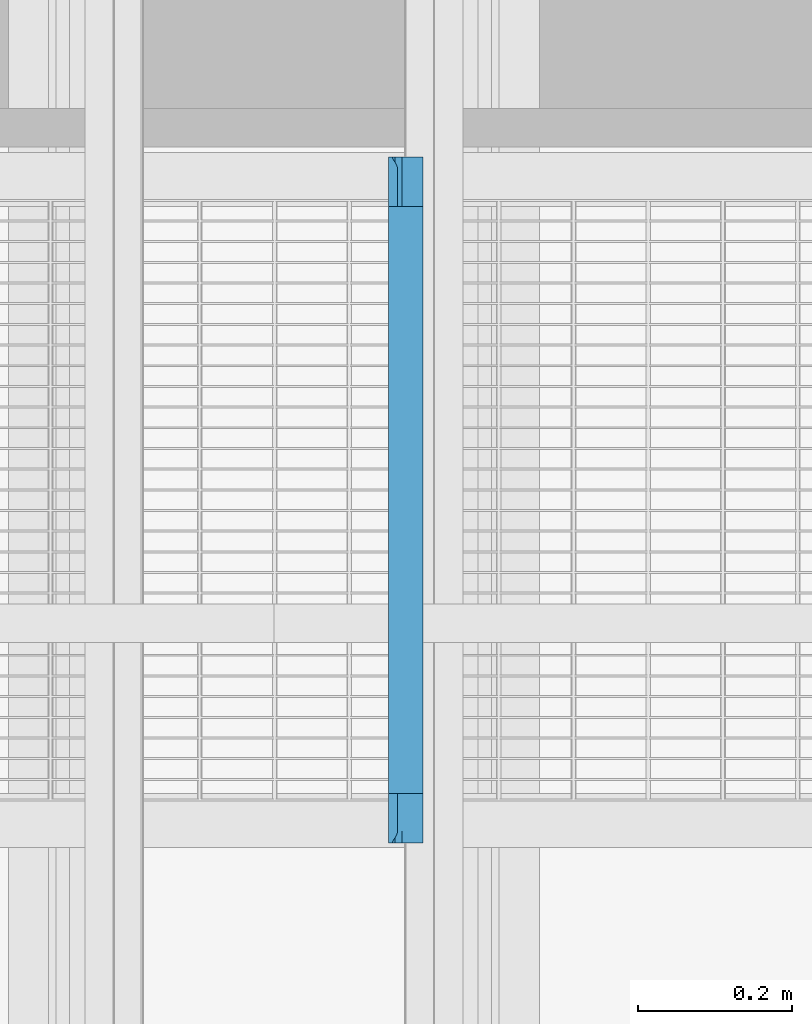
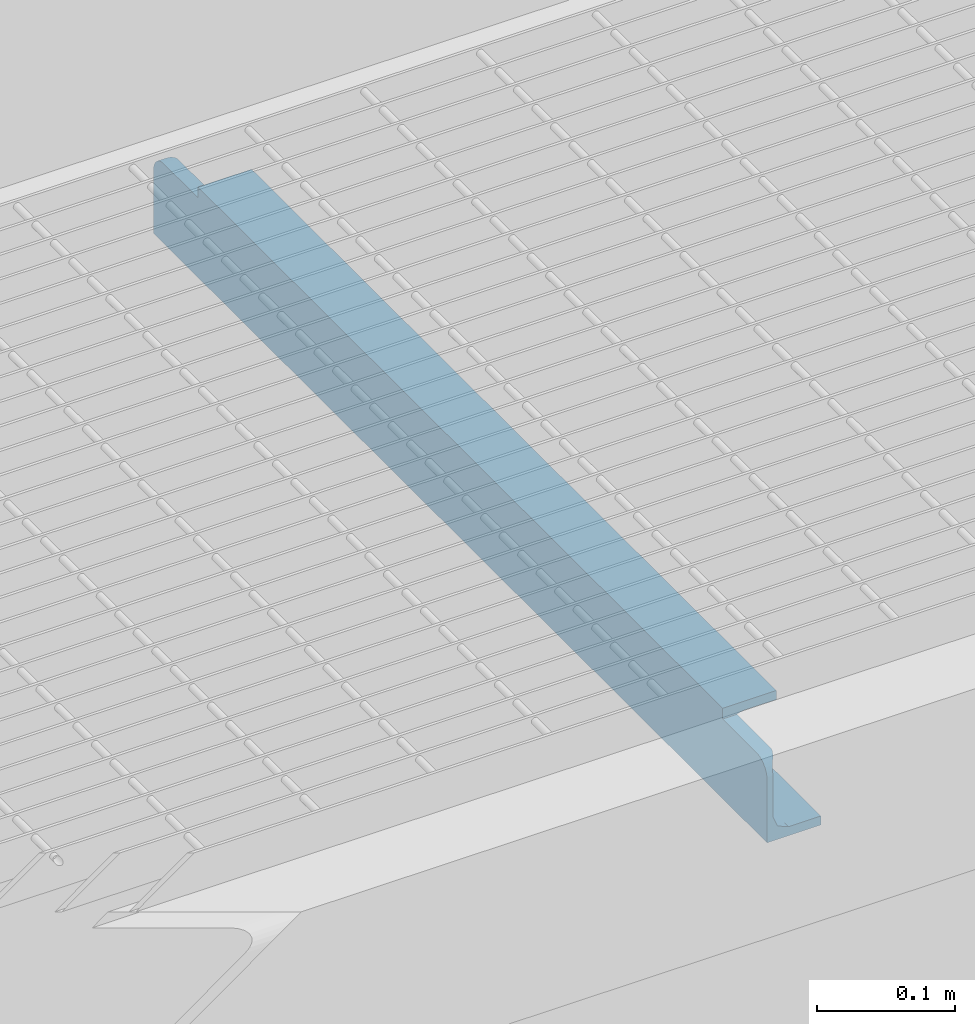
# One storey, part 50 of 75: 1 beam.
"""IFC2X3 building model written with IfcOpenShell, lengths in metres."""

from ifc_helpers import new_model, entity, si_unit, converted_unit, derived_unit, direction, frame, origin, place, context, subcontext, project, spatial, faceted_brep, material, type_object, element, save


model = new_model("IFC2X3")

# Units and contexts
model_context = context("Model", 3, precision=1e-05, world=origin(), true_north=direction((6.12303176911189e-17, 1.0)))
body_context = subcontext(model_context, "Body", "Model", "MODEL_VIEW")
ifc_project = project(units=[si_unit("LENGTHUNIT", "METRE"), si_unit("AREAUNIT", "SQUARE_METRE"), si_unit("VOLUMEUNIT", "CUBIC_METRE"), converted_unit("PLANEANGLEUNIT", "DEGREE", entity("IfcRatioMeasure", 0.0174532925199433), si_unit("PLANEANGLEUNIT", "RADIAN"), dimensions=[0, 0, 0, 0, 0, 0, 0]), si_unit("MASSUNIT", "GRAM", prefix="KILO"), derived_unit("MASSDENSITYUNIT", [(si_unit("MASSUNIT", "GRAM", prefix="KILO"), 1), (si_unit("LENGTHUNIT", "METRE"), -3)]), derived_unit("MOMENTOFINERTIAUNIT", [(si_unit("LENGTHUNIT", "METRE"), 4)]), si_unit("TIMEUNIT", "SECOND"), si_unit("FREQUENCYUNIT", "HERTZ"), si_unit("THERMODYNAMICTEMPERATUREUNIT", "DEGREE_CELSIUS"), derived_unit("THERMALTRANSMITTANCEUNIT", [(si_unit("MASSUNIT", "GRAM", prefix="KILO"), 1), (si_unit("THERMODYNAMICTEMPERATUREUNIT", "KELVIN"), -1), (si_unit("TIMEUNIT", "SECOND"), -3)]), derived_unit("VOLUMETRICFLOWRATEUNIT", [(si_unit("LENGTHUNIT", "METRE"), 3), (si_unit("TIMEUNIT", "SECOND"), -1)]), si_unit("ELECTRICCURRENTUNIT", "AMPERE"), si_unit("ELECTRICVOLTAGEUNIT", "VOLT"), si_unit("POWERUNIT", "WATT"), si_unit("FORCEUNIT", "NEWTON", prefix="KILO"), si_unit("ILLUMINANCEUNIT", "LUX"), si_unit("LUMINOUSFLUXUNIT", "LUMEN"), si_unit("LUMINOUSINTENSITYUNIT", "CANDELA"), derived_unit("USERDEFINED", [(si_unit("MASSUNIT", "GRAM", prefix="KILO"), -1), (si_unit("LENGTHUNIT", "METRE"), -2), (si_unit("TIMEUNIT", "SECOND"), 3), (si_unit("LUMINOUSFLUXUNIT", "LUMEN"), 1)]), derived_unit("LINEARVELOCITYUNIT", [(si_unit("LENGTHUNIT", "METRE"), 1), (si_unit("TIMEUNIT", "SECOND"), -1)]), si_unit("PRESSUREUNIT", "PASCAL"), derived_unit("USERDEFINED", [(si_unit("LENGTHUNIT", "METRE"), -2), (si_unit("MASSUNIT", "GRAM", prefix="KILO"), 1), (si_unit("TIMEUNIT", "SECOND"), -2)]), derived_unit("LINEARFORCEUNIT", [(si_unit("MASSUNIT", "GRAM", prefix="KILO"), 1), (si_unit("LENGTHUNIT", "METRE"), 1), (si_unit("TIMEUNIT", "SECOND"), -2), (si_unit("LENGTHUNIT", "METRE"), -1)]), derived_unit("PLANARFORCEUNIT", [(si_unit("MASSUNIT", "GRAM", prefix="KILO"), 1), (si_unit("LENGTHUNIT", "METRE"), 1), (si_unit("TIMEUNIT", "SECOND"), -2), (si_unit("LENGTHUNIT", "METRE"), -2)])], contexts=[model_context])

# Site, building, storey
site_placement = place(None, origin())
site = spatial("IfcSite", under=ifc_project, at=site_placement, Name="Superficie", CompositionType="ELEMENT")
building_placement = place(site_placement, origin())
building = spatial("IfcBuilding", under=site, at=building_placement, Name="Telegestiones", CompositionType="ELEMENT")
storey_placement = place(building_placement, origin())
storey = spatial("IfcBuildingStorey", under=building, at=storey_placement, Name="Nivel 0_NPT", CompositionType="ELEMENT", Elevation=0.0)

# Beam
ifc_material = material(Name="Metal - Acero - 345 MPa")
beam_type = type_object("IfcBeamType", Name="U-Canales de ala paralela:UAP80", PredefinedType="NOTDEFINED")
beam_placement = place(storey_placement, frame((10.6417897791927, 12.7898119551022, 17.78), z_axis=(0.0, 0.0, 1.0), x_axis=(0.0, -1.0, 0.0)))
element("IfcBeam", 1, at=beam_placement, inside=storey, type_object=beam_type, material=ifc_material, Name="U-Canales de ala paralela:UAP80", ObjectType="U-Canales de ala paralela:UAP80", context=body_context, shape_type="Brep", body=[
    faceted_brep([(-0.00159527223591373, 0.0450000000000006, 0.0), (-0.00159527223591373, 0.0450000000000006, 0.00799999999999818), (-0.00159527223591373, 0.0180000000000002, 0.00799999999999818), (-0.00159527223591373, 0.0140667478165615, 0.00962920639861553), (-0.00159527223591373, 0.0114371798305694, 0.0107184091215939), (-0.00159527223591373, 0.00880761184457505, 0.0118076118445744), (-0.00159527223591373, 0.00785570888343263, 0.014105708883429), (-0.00159527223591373, 0.00690380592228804, 0.0164038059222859), (-0.00159527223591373, 0.00595190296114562, 0.0187019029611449), (-0.00159527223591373, 0.00500000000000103, 0.0209999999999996), (-0.00159527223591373, 0.00500000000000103, 0.0579413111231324), (-0.00159527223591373, 0.0, 0.0579413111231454), (-0.00159527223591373, 0.0, 0.0), (-0.890595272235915, 0.0180000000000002, 0.00799999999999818), (-0.890595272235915, 0.0450000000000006, 0.00799999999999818), (-0.890595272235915, 0.0450000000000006, 0.0), (-0.890595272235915, 0.0, 0.0), (-0.890595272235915, 0.0, 0.0579413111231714), (-0.890595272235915, 0.00500000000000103, 0.0579413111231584), (-0.890595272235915, 0.00500000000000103, 0.0209999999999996), (-0.890595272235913, 0.00581460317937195, 0.0190333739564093), (-0.890595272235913, 0.00690380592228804, 0.0164038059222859), (-0.890595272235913, 0.00785570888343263, 0.0141057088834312), (-0.890595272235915, 0.00880761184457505, 0.0118076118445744), (-0.890595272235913, 0.0111057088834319, 0.0108557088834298), (-0.890595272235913, 0.0134038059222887, 0.00990380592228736), (-0.890595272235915, 0.0160333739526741, 0.00881460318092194), (-0.826295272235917, 0.0, 0.0799999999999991), (-0.0658952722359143, 0.0, 0.0799999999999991), (-0.0658952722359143, 0.0450000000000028, 0.0799999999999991), (-0.826295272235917, 0.0450000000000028, 0.0799999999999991), (-0.0658952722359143, 0.0450000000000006, 0.0719999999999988), (-0.826295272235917, 0.0450000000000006, 0.0719999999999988), (-0.0658952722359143, 0.0180000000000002, 0.0719999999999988), (-0.128842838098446, 0.0180000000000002, 0.0719999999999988), (-0.194304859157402, 0.0180000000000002, 0.0719999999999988), (-0.322714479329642, 0.0180000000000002, 0.0719999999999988), (-0.448609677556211, 0.0180000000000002, 0.072000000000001), (-0.574504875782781, 0.0180000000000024, 0.072000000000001), (-0.700400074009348, 0.0180000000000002, 0.0719999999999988), (-0.763347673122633, 0.0180000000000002, 0.0719999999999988), (-0.826295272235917, 0.0180000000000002, 0.0719999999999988), (-0.1253385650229, 0.00873473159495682, 0.0681189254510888), (-0.00990097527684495, 0.00971902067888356, 0.0690212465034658), (-0.00722207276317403, 0.00805140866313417, 0.0673681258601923), (-0.544296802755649, 0.00667192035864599, 0.0653776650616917), (-0.463738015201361, 0.00590908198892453, 0.0637759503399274), (-0.537050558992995, 0.00560250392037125, 0.0629117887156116), (-0.792641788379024, 0.00525335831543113, 0.0615540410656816), (-0.794133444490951, 0.00500000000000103, 0.0589999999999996), (-0.890381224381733, 0.00500000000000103, 0.0589999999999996), (-0.0658952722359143, 0.0119378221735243, 0.0705000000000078), (-0.138679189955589, 0.0108749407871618, 0.0698735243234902), (-0.289684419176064, 0.00818591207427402, 0.0675254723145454), (-0.235689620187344, 0.00983678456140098, 0.0691174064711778), (-0.221438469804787, 0.00711297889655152, 0.0661044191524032), (-0.828358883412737, 0.00588467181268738, 0.0637136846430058), (-0.754190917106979, 0.0058648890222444, 0.0636625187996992), (-0.122570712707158, 0.00586898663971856, 0.0636731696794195), (-0.00489743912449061, 0.00653775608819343, 0.0651332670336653), (-0.00303111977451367, 0.00542889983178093, 0.0623117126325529), (-0.139747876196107, 0.0133736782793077, 0.0711489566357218), (-0.0658952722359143, 0.0148775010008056, 0.0716194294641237), (-0.826295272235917, 0.0148775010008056, 0.0716194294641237), (-0.725006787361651, 0.007054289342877, 0.0660136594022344), (-0.806159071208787, 0.007190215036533, 0.066221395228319), (-0.751188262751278, 0.00871967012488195, 0.0681035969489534), (-0.821741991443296, 0.00878771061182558, 0.0681724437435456), (-0.731873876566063, 0.0157137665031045, 0.0717973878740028), (-0.656388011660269, 0.0158751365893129, 0.0718251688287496), (-0.887293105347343, 0.00653775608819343, 0.0651332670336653), (-0.884968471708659, 0.00805140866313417, 0.0673681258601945), (-0.153427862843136, 0.00681728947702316, 0.0656292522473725), (-0.0851009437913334, 0.0070865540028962, 0.0660637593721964), (-0.223870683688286, 0.00557806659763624, 0.0628334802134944), (-0.324805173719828, 0.00685931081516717, 0.065699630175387), (-0.889159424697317, 0.00542889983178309, 0.0623117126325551), (-0.0163952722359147, 0.01193782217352, 0.0705000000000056), (-0.0129474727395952, 0.0112305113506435, 0.0700983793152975), (-0.875795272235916, 0.0119378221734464, 0.0704999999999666), (-0.826295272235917, 0.0119378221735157, 0.0705000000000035), (-0.879243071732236, 0.0112305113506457, 0.0700983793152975), (-0.399380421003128, 0.00536884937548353, 0.0620747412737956), (-0.392844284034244, 0.00621995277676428, 0.0644982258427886), (-0.226457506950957, 0.0133736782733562, 0.0711489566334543), (-0.161573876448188, 0.0157225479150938, 0.0717989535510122), (-0.75345464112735, 0.0133736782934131, 0.0711489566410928), (-0.66760529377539, 0.0133736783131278, 0.0711489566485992), (-0.710529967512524, 0.0108989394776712, 0.069889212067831), (-0.882289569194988, 0.00971902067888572, 0.069021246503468), (-0.39087865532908, 0.0147556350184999, 0.0715886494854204), (-0.511557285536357, 0.0147219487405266, 0.0715799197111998), (-0.447031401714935, 0.0116878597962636, 0.0703647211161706), (-0.155170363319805, 0.00522625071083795, 0.0614148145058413), (-0.0800317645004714, 0.00520855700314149, 0.0613192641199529), (-0.127704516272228, 0.00500000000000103, 0.0589999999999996), (-0.717894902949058, 0.00523967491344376, 0.0614847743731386), (-0.664463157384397, 0.00890351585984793, 0.0682873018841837), (-0.313627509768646, 0.0152996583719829, 0.0717164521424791), (-0.236434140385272, 0.0158580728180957, 0.0718223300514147), (-0.566912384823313, 0.011307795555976, 0.0701451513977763), (-0.449725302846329, 0.007164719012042, 0.0661830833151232), (-0.330812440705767, 0.01176120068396, 0.0704051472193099), (-0.0018093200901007, 0.00500000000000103, 0.0589999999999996), (-0.374471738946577, 0.00795566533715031, 0.067252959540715), (-0.339661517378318, 0.00960203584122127, 0.0689234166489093), (-0.495596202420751, 0.00856943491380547, 0.0679478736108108), (-0.419471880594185, 0.00955595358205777, 0.0688842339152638), (-0.591250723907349, 0.0142535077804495, 0.0714484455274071), (-0.637492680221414, 0.0107328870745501, 0.0697791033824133), (-0.580926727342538, 0.00847032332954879, 0.0678422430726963), (-0.614751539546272, 0.00554163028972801, 0.0627133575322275), (-0.479182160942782, 0.00521908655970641, 0.0613766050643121), (-0.63679408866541, 0.00709380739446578, 0.0660749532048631), (-0.601637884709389, 0.00500000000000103, 0.0589999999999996), (-0.697885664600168, 0.00500000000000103, 0.0589999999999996), (-0.682036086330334, 0.00583156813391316, 0.0635748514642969), (-0.505390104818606, 0.00500000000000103, 0.0589999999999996), (-0.327009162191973, 0.00576169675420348, 0.0633845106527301), (-0.253599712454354, 0.00500000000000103, 0.0589999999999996), (-0.379494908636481, 0.00500000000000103, 0.0589999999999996), (-0.890497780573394, 0.00500000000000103, 0.0584725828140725), (-0.00169276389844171, 0.00500000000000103, 0.0584725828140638), (-0.127490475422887, 0.00500000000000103, 0.0209999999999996), (-0.253385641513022, 0.00500000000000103, 0.0209999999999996), (-0.349740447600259, 0.00500000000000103, 0.0209999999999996), (-0.446095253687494, 0.00500000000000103, 0.0209999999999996), (-0.55722023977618, 0.00500000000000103, 0.0209999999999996), (-0.668345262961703, 0.00500000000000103, 0.0209999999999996), (-0.76470006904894, 0.00500000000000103, 0.0209999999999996), (-0.0794870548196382, 0.00972190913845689, 0.0109763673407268), (-0.435997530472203, 0.00556213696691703, 0.0172185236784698), (-0.373294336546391, 0.00522987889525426, 0.0185660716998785), (-0.639580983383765, 0.0053531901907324, 0.0179903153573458), (-0.632632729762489, 0.00637757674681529, 0.0151759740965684), (-0.716522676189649, 0.00574745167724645, 0.0166554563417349), (-0.449211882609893, 0.012354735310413, 0.00928970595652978), (-0.32038846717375, 0.0113965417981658, 0.00980203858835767), (-0.338837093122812, 0.0147439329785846, 0.00841437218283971), (-0.524503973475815, 0.0144490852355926, 0.00849436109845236), (-0.512909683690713, 0.0180000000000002, 0.00799999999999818), (-0.601869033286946, 0.0154448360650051, 0.00825358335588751), (-0.403832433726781, 0.00939162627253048, 0.011258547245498), (-0.67300585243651, 0.0104857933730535, 0.0103916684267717), (-0.573219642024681, 0.0105107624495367, 0.0103740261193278), (-0.608382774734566, 0.0127204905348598, 0.00912032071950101), (-0.557220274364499, 0.00560622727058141, 0.0170764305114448), (-0.300537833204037, 0.00846054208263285, 0.0121683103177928), (-0.726955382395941, 0.0139509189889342, 0.00864666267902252), (-0.76470007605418, 0.0180000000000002, 0.00800000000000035), (-0.813619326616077, 0.0144028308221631, 0.00850758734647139), (-0.207094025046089, 0.00538630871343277, 0.0178544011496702), (-0.301563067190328, 0.00537533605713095, 0.017898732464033), (-0.349740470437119, 0.00647967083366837, 0.0149765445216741), (-0.15005261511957, 0.0110865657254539, 0.00999071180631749), (-0.0758239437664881, 0.0123642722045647, 0.00928511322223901), (-0.153439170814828, 0.00630537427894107, 0.0153223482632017), (-0.0880955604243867, 0.00767465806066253, 0.0131014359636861), (-0.183268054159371, 0.0083334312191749, 0.0123076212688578), (-0.236059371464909, 0.0108404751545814, 0.0101491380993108), (-0.118743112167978, 0.00535692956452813, 0.0179746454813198), (-0.0782307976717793, 0.00607386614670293, 0.0158262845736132), (-0.251391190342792, 0.0134664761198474, 0.00881611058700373), (-0.0763306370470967, 0.0152252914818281, 0.00829956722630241), (-0.160897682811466, 0.0144821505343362, 0.00848501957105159), (-0.127490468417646, 0.0180000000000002, 0.00800000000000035), (-0.194304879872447, 0.0180000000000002, 0.00799999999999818), (-0.290659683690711, 0.0180000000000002, 0.00799999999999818), (-0.38701448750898, 0.0179999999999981, 0.00800000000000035), (-0.274648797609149, 0.0156603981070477, 0.00821226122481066), (-0.428012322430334, 0.0152285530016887, 0.00829885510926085), (-0.512909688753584, 0.00904802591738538, 0.0115733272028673), (-0.5444433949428, 0.00701878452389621, 0.0140420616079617), (-0.607082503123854, 0.00857249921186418, 0.0120488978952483), (-0.785766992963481, 0.00998354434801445, 0.0107659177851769), (-0.700833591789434, 0.00807841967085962, 0.0125998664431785), (-0.638804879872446, 0.0180000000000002, 0.00799999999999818), (-0.802846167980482, 0.00747715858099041, 0.0133665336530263), (-0.807175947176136, 0.00550758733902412, 0.0174028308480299), (-0.447339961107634, 0.00719760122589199, 0.0137675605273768), (-0.251589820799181, 0.00639123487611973, 0.0151487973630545), (-0.369128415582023, 0.00783049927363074, 0.0129017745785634), (-0.698574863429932, 0.00670885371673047, 0.0145571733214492), (-0.821923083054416, 0.0119518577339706, 0.00949261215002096), (-0.0163952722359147, 0.0, 0.0705000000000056), (-0.0658952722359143, 0.0, 0.0705000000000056), (-0.826295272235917, 0.0, 0.0705000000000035), (-0.875795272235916, 0.0, 0.0705000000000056), (-0.879281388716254, 0.0, 0.0700892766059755), (-0.88257659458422, 0.0, 0.0688795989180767), (-0.885500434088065, 0.0, 0.0669372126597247), (-0.887892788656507, 0.0, 0.0643684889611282), (-0.889622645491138, 0.0, 0.0613140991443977), (-0.00256789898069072, 0.0, 0.0613140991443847), (-0.00429775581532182, 0.0, 0.0643684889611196), (-0.00669011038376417, 0.0, 0.0669372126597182), (-0.0096139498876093, 0.0, 0.0688795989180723), (-0.0129091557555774, 0.0, 0.0700892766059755)], [[[0, 1, 2, 3, 4, 5, 6, 7, 8, 9, 10, 11, 12]], [[13, 14, 15, 16, 17, 18, 19, 20, 21, 22, 23, 24, 25, 26]], [[27, 28, 29, 30]], [[30, 29, 31, 32]], [[14, 1, 0, 15]], [[32, 31, 33, 34, 35, 36, 37, 38, 39, 40, 41]], [[42, 43, 44]], [[45, 46, 47]], [[48, 49, 50]], [[51, 42, 52]], [[42, 51, 43]], [[53, 54, 55]], [[56, 57, 48]], [[58, 59, 60]], [[51, 61, 62]], [[34, 33, 62]], [[41, 40, 63]], [[64, 65, 66]], [[66, 65, 67]], [[42, 55, 54]], [[68, 39, 69]], [[65, 70, 71]], [[68, 40, 39]], [[72, 73, 58]], [[74, 75, 55]], [[70, 56, 76]], [[77, 78, 51]], [[79, 80, 81]], [[82, 46, 83]], [[52, 61, 51]], [[84, 85, 61]], [[44, 73, 42]], [[86, 87, 88]], [[86, 80, 63]], [[80, 89, 81]], [[37, 36, 90]], [[58, 73, 59]], [[71, 89, 67]], [[91, 90, 92]], [[93, 94, 95]], [[80, 67, 89]], [[48, 57, 96]], [[78, 43, 51]], [[88, 97, 66]], [[98, 36, 99]], [[58, 60, 94]], [[91, 92, 100]], [[46, 101, 83]], [[70, 65, 56]], [[99, 85, 84]], [[57, 65, 64]], [[71, 67, 65]], [[66, 67, 80]], [[54, 102, 84]], [[48, 96, 49]], [[103, 94, 60]], [[53, 104, 105]], [[106, 100, 92]], [[55, 75, 53]], [[92, 90, 102]], [[102, 105, 107]], [[69, 38, 108]], [[38, 37, 91]], [[100, 108, 91]], [[109, 88, 87]], [[105, 104, 107]], [[110, 109, 100]], [[47, 111, 45]], [[45, 110, 106]], [[112, 46, 82]], [[62, 85, 34]], [[54, 84, 52]], [[66, 80, 88]], [[86, 63, 68]], [[86, 88, 80]], [[66, 97, 64]], [[113, 97, 110]], [[97, 88, 109]], [[113, 110, 45]], [[106, 110, 100]], [[114, 115, 111]], [[101, 46, 45]], [[45, 111, 113]], [[57, 116, 96]], [[117, 114, 47]], [[98, 99, 84]], [[37, 90, 91]], [[48, 50, 76]], [[72, 58, 74]], [[61, 52, 84]], [[52, 42, 54]], [[57, 64, 116]], [[113, 64, 97]], [[35, 34, 85]], [[99, 35, 85]], [[61, 85, 62]], [[99, 36, 35]], [[90, 36, 98]], [[68, 69, 87]], [[40, 68, 63]], [[86, 68, 87]], [[87, 69, 108]], [[69, 39, 38]], [[87, 108, 100]], [[91, 108, 38]], [[112, 47, 46]], [[118, 119, 120]], [[57, 56, 65]], [[56, 48, 76]], [[115, 49, 96]], [[96, 111, 115]], [[111, 96, 116]], [[116, 113, 111]], [[113, 116, 64]], [[97, 109, 110]], [[100, 109, 87]], [[74, 119, 118]], [[95, 119, 93]], [[111, 47, 114]], [[117, 47, 112]], [[112, 120, 117]], [[83, 118, 82]], [[82, 120, 112]], [[82, 118, 120]], [[118, 83, 75]], [[101, 107, 104]], [[83, 101, 104]], [[106, 101, 45]], [[59, 73, 44]], [[55, 42, 72]], [[73, 72, 42]], [[55, 72, 74]], [[58, 94, 93]], [[95, 94, 103]], [[93, 74, 58]], [[74, 93, 119]], [[102, 54, 105]], [[104, 53, 75]], [[53, 105, 54]], [[92, 102, 107]], [[107, 106, 92]], [[106, 107, 101]], [[104, 75, 83]], [[74, 118, 75]], [[98, 102, 90]], [[102, 98, 84]], [[19, 18, 121, 50, 49, 115, 114, 117, 120, 119, 95, 103, 122, 10, 9, 123, 124, 125, 126, 127, 128, 129]], [[4, 130, 5]], [[131, 126, 132]], [[133, 134, 135]], [[136, 137, 138]], [[139, 140, 141]], [[142, 137, 136]], [[143, 144, 145]], [[127, 146, 133]], [[137, 142, 147]], [[148, 149, 150]], [[124, 123, 151]], [[152, 153, 132]], [[154, 130, 155]], [[156, 157, 158]], [[137, 147, 159]], [[160, 161, 156]], [[162, 138, 137]], [[162, 137, 159]], [[163, 3, 2]], [[154, 162, 159]], [[3, 163, 155]], [[164, 165, 166]], [[167, 168, 138]], [[166, 169, 164]], [[164, 169, 162]], [[170, 139, 136]], [[136, 144, 171]], [[138, 170, 136]], [[168, 170, 138]], [[172, 171, 173]], [[145, 148, 143]], [[172, 146, 131]], [[128, 135, 129]], [[143, 174, 175]], [[141, 176, 148]], [[174, 23, 177]], [[129, 178, 20]], [[21, 178, 177]], [[20, 178, 21]], [[179, 171, 172]], [[172, 134, 146]], [[142, 171, 179]], [[138, 162, 169]], [[164, 162, 154]], [[159, 158, 154]], [[158, 147, 180]], [[158, 159, 147]], [[181, 142, 179]], [[5, 130, 157]], [[180, 156, 158]], [[147, 142, 181]], [[171, 142, 136]], [[153, 179, 131]], [[172, 131, 179]], [[125, 124, 152]], [[126, 131, 146]], [[180, 152, 151]], [[125, 152, 132]], [[153, 152, 180]], [[153, 180, 147]], [[160, 156, 151]], [[156, 180, 151]], [[161, 6, 157]], [[151, 152, 124]], [[8, 160, 123]], [[123, 160, 151]], [[161, 8, 7, 6]], [[134, 133, 146]], [[173, 134, 172]], [[134, 182, 135]], [[175, 134, 173]], [[175, 173, 143]], [[173, 171, 144]], [[174, 177, 175]], [[176, 149, 148]], [[143, 148, 174]], [[26, 150, 149]], [[183, 24, 174]], [[150, 25, 183]], [[182, 175, 177]], [[22, 21, 177, 23]], [[154, 158, 130]], [[127, 126, 146]], [[133, 135, 128]], [[156, 161, 157]], [[8, 123, 9]], [[20, 19, 129]], [[157, 130, 158]], [[4, 3, 155]], [[155, 163, 164]], [[4, 155, 130]], [[154, 155, 164]], [[163, 165, 164]], [[165, 163, 2]], [[139, 144, 136]], [[170, 168, 140]], [[145, 139, 141]], [[139, 170, 140]], [[173, 144, 143]], [[139, 145, 144]], [[145, 141, 148]], [[176, 141, 140]], [[25, 150, 26]], [[149, 13, 26]], [[174, 148, 183]], [[150, 183, 148]], [[23, 174, 24]], [[183, 25, 24]], [[178, 135, 177]], [[135, 178, 129]], [[169, 167, 138]], [[127, 133, 128]], [[167, 169, 166]], [[181, 153, 147]], [[153, 181, 179]], [[125, 132, 126]], [[131, 132, 153]], [[160, 8, 161]], [[135, 182, 177]], [[182, 134, 175]], [[6, 5, 157]], [[1, 14, 13, 149, 176, 140, 168, 167, 166, 165, 2]], [[15, 0, 12, 16]], [[184, 185, 28, 27, 186, 187, 188, 189, 190, 191, 192, 17, 16, 12, 11, 193, 194, 195, 196, 197]], [[51, 62, 33, 31, 29, 28, 185]], [[51, 185, 184, 77]], [[80, 79, 187, 186]], [[78, 184, 197]], [[197, 196, 43]], [[195, 44, 196]], [[77, 184, 78]], [[78, 197, 43]], [[196, 44, 43]], [[195, 59, 44]], [[60, 194, 193]], [[193, 11, 103]], [[10, 122, 11]], [[60, 59, 194]], [[122, 103, 11]], [[60, 193, 103]], [[194, 59, 195]], [[17, 50, 121]], [[50, 17, 192]], [[50, 192, 76]], [[76, 192, 191]], [[121, 18, 17]], [[70, 76, 191]], [[191, 190, 70]], [[71, 190, 189]], [[189, 188, 89]], [[187, 81, 188]], [[71, 189, 89]], [[81, 89, 188]], [[79, 81, 187]], [[190, 71, 70]], [[80, 186, 27, 30, 32, 41, 63]]]),
])

save(model, "model.ifc")
